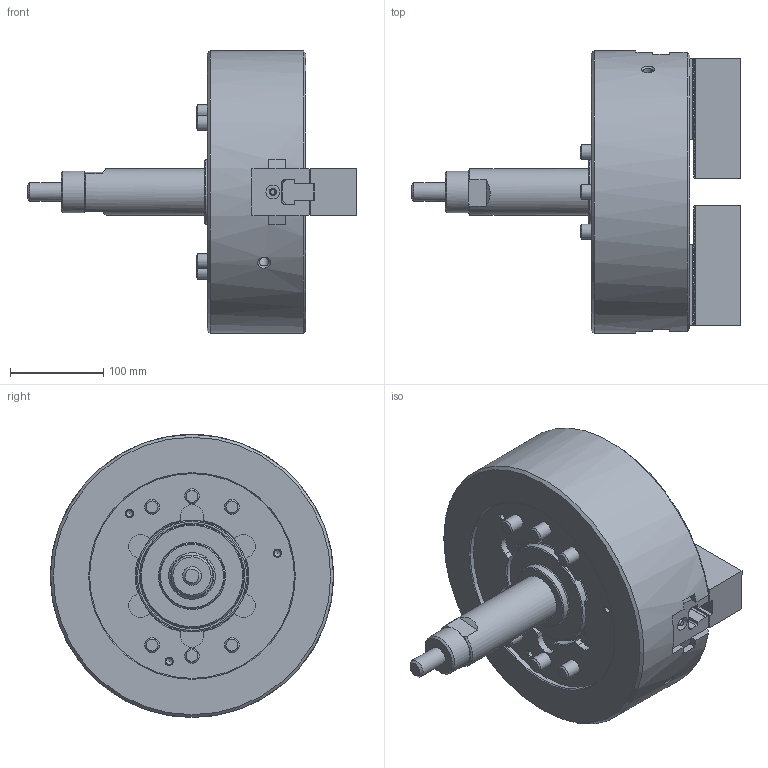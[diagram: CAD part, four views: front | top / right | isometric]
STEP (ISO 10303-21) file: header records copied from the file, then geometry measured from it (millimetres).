
FILE_DESCRIPTION (( 'STEP AP214' ), '1' );
FILE_NAME ('NLT12_OC.STEP1.STEP', '2020-03-10T01:37:56', ( '' ), ( '' ), 'SwSTEP 2.0', 'SolidWorks 2017', '' );
FILE_SCHEMA (( 'AUTOMOTIVE_DESIGN' ));
Length unit declared in the file: millimetre
Products named in the file (5): 結合-1; 0030114045; 61P400941_俿僫僢僩-1; 61P314550_ソフトジョー-1; NLT12_OC.STEP1
Assembly tree (9 placements, depth 2):
  NLT12_OC.STEP1
    61P314550_ソフトジョー-1  x2
    61P400941_俿僫僢僩-1  x2
    0030114045  x4
    結合-1
Bounding box: 353.2 x 304 x 304 mm (x, y, z)
Volume: 8281638 mm3; surface area: 446378.7 mm2
Topology: 9 solids, 9 shells, 2344 faces, 6645 edges, 4363 vertices
Faces by surface type: plane 2132, cylinder 97, cone 96, torus 19
Full cylindrical faces by diameter (mm): 4 x4, 6.8 x3, 8.72 x4, 9.5 x4, 10.2 x2, 12 x8, 14 x10, 15 x6, 16 x6, 20 x1, 21.33 x4, 22 x4, 24.33 x6, 25 x6, 45 x1, 50 x1, 70 x1, 111 x1, 120 x1, 220 x1, 304 x1
Entity records: 54985 total; most frequent: CARTESIAN_POINT 10961, ORIENTED_EDGE 9384, DIRECTION 8367, EDGE_CURVE 4692, LINE 4217, VECTOR 4217, VERTEX_POINT 3147, AXIS2_PLACEMENT_3D 2075
